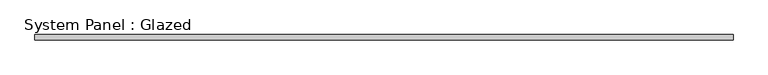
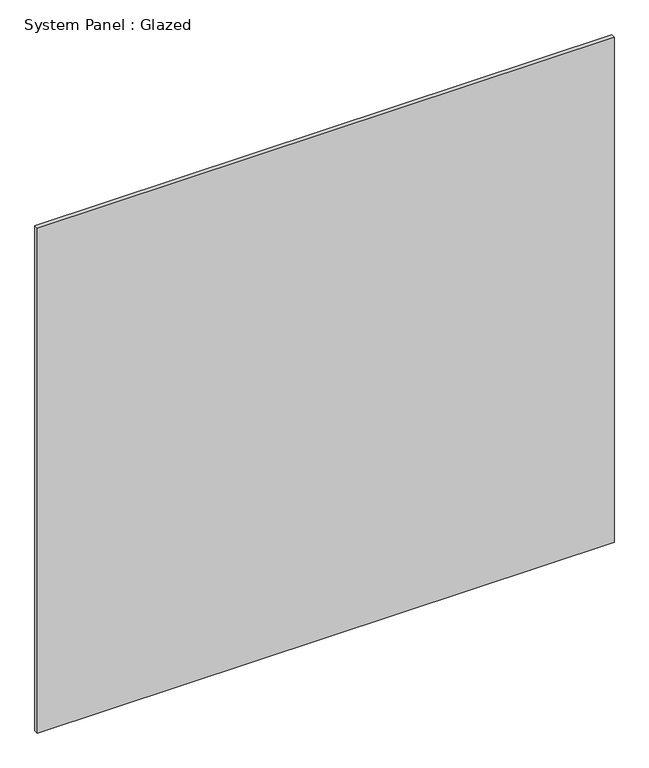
"""IFC4 building model written with IfcOpenShell, lengths in millimetres: plate geometry, System Panel : Glazed."""

from ifc_helpers import new_model, si_unit, origin, origin_with_axes, place, context, project, spatial, polyline, outline, extrude, source, transform, mapped, element, save


def system_panel_glazed_772a6538(model_context):
    return source(origin(), model_context, "Body", "SweptSolid", [
        extrude(outline(polyline([(1675.0, -49.5), (-1675.0, -49.5), (-1675.0, -24.5), (1675.0, -24.5), (1675.0, -49.5)])), origin_with_axes(), (0.0, 0.0, 1.0), 3100.0),
    ])


if __name__ == "__main__":
    model = new_model("IFC4")
    model_context = context("Model", 3, world=origin())
    ifc_project = project(units=[si_unit("LENGTHUNIT", "METRE", prefix="MILLI")], contexts=[model_context])
    site = spatial("IfcSite", under=ifc_project)
    building = spatial("IfcBuilding", under=site)
    placement = place(None, origin())
    system_panel_glazed_shape = system_panel_glazed_772a6538(model_context)
    element("IfcPlate", 1, ObjectType="System Panel : Glazed", at=placement, inside=building, context=model_context, shape_type="MappedRepresentation", body=[
        mapped(system_panel_glazed_shape, transform((0.0, 0.0, 0.0), x_axis=(1.0, 0.0, 0.0), y_axis=(0.0, 1.0, 0.0), z_axis=(0.0, 0.0, 1.0))),
    ])
    save(model, "model.ifc")
